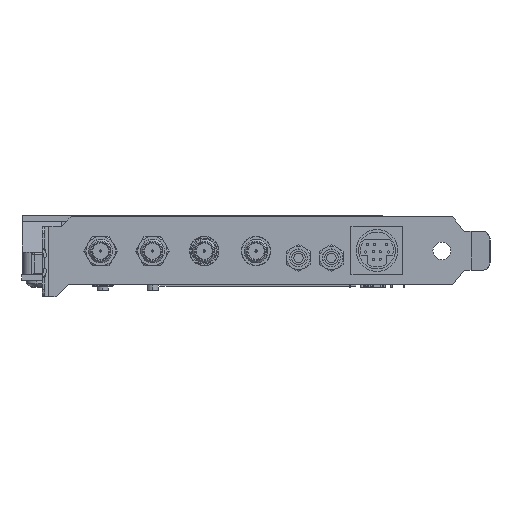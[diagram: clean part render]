
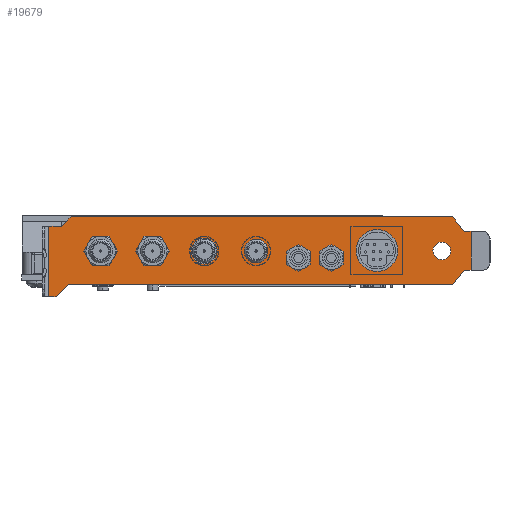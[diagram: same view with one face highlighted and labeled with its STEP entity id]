
A CAD part, left-side view. The second image highlights one B-rep face of the part: STEP entity #19679.
In plain terms, the highlighted planar face has unit normal (-1, 0, 0).
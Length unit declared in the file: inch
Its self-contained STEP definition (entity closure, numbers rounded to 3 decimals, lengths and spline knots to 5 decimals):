
#2687=DIRECTION('',(0.,-1.,0.));
#2688=VECTOR('',#2687,0.078);
#2689=CARTESIAN_POINT('',(0.13,3.72,-0.175));
#2690=LINE('',#2689,#2688);
#3059=DIRECTION('',(0.,-1.,0.));
#3060=VECTOR('',#3059,4.0519);
#3061=CARTESIAN_POINT('',(0.13,3.483,0.675));
#3062=LINE('',#3061,#3060);
#3145=DIRECTION('',(0.,0.,1.));
#3146=VECTOR('',#3145,0.412);
#3147=CARTESIAN_POINT('',(0.13,-0.764,0.108));
#3148=LINE('',#3147,#3146);
#3149=DIRECTION('',(0.,1.,0.));
#3150=VECTOR('',#3149,0.074);
#3151=CARTESIAN_POINT('',(0.13,-0.764,0.108));
#3152=LINE('',#3151,#3150);
#3153=DIRECTION('',(0.,0.616,-0.788));
#3154=VECTOR('',#3153,0.1967);
#3155=CARTESIAN_POINT('',(0.13,-0.69,0.108));
#3156=LINE('',#3155,#3154);
#3157=DIRECTION('',(0.,1.,0.));
#3158=VECTOR('',#3157,4.0829);
#3159=CARTESIAN_POINT('',(0.13,-0.5689,-0.047));
#3160=LINE('',#3159,#3158);
#3161=DIRECTION('',(0.,0.707,-0.707));
#3162=VECTOR('',#3161,0.18102);
#3163=CARTESIAN_POINT('',(0.13,3.514,-0.047));
#3164=LINE('',#3163,#3162);
#3165=DIRECTION('',(0.,0.,-1.));
#3166=VECTOR('',#3165,0.75);
#3167=CARTESIAN_POINT('',(0.13,3.72,0.575));
#3168=LINE('',#3167,#3166);
#3169=DIRECTION('',(0.,-1.,0.));
#3170=VECTOR('',#3169,0.137);
#3171=CARTESIAN_POINT('',(0.13,3.72,0.575));
#3172=LINE('',#3171,#3170);
#3173=DIRECTION('',(0.,-0.707,0.707));
#3174=VECTOR('',#3173,0.14142);
#3175=CARTESIAN_POINT('',(0.13,3.583,0.575));
#3176=LINE('',#3175,#3174);
#3177=DIRECTION('',(0.,-0.616,-0.788));
#3178=VECTOR('',#3177,0.1967);
#3179=CARTESIAN_POINT('',(0.13,-0.5689,0.675));
#3180=LINE('',#3179,#3178);
#3181=DIRECTION('',(0.,1.,0.));
#3182=VECTOR('',#3181,0.074);
#3183=CARTESIAN_POINT('',(0.13,-0.764,0.52));
#3184=LINE('',#3183,#3182);
#3185=CARTESIAN_POINT('',(0.13,-0.453,0.314));
#3186=DIRECTION('',(-1.,0.,0.));
#3187=DIRECTION('',(0.,-1.,0.));
#3188=AXIS2_PLACEMENT_3D('',#3185,#3186,#3187);
#3190=CARTESIAN_POINT('',(0.13,-0.453,0.314));
#3191=DIRECTION('',(-1.,0.,0.));
#3192=DIRECTION('',(0.,1.,0.));
#3193=AXIS2_PLACEMENT_3D('',#3190,#3191,#3192);
#3195=CARTESIAN_POINT('',(0.13,0.235,0.318));
#3196=DIRECTION('',(-1.,0.,0.));
#3197=DIRECTION('',(0.,-1.,0.));
#3198=AXIS2_PLACEMENT_3D('',#3195,#3196,#3197);
#3200=CARTESIAN_POINT('',(0.13,0.235,0.318));
#3201=DIRECTION('',(-1.,0.,0.));
#3202=DIRECTION('',(0.,1.,0.));
#3203=AXIS2_PLACEMENT_3D('',#3200,#3201,#3202);
#3205=CARTESIAN_POINT('',(0.13,3.169,0.312));
#3206=DIRECTION('',(-1.,0.,0.));
#3207=DIRECTION('',(0.,-1.,0.));
#3208=AXIS2_PLACEMENT_3D('',#3205,#3206,#3207);
#3210=CARTESIAN_POINT('',(0.13,3.169,0.312));
#3211=DIRECTION('',(-1.,0.,0.));
#3212=DIRECTION('',(0.,1.,0.));
#3213=AXIS2_PLACEMENT_3D('',#3210,#3211,#3212);
#3215=CARTESIAN_POINT('',(0.13,1.519,0.312));
#3216=DIRECTION('',(-1.,0.,0.));
#3217=DIRECTION('',(0.,-1.,0.));
#3218=AXIS2_PLACEMENT_3D('',#3215,#3216,#3217);
#3220=CARTESIAN_POINT('',(0.13,1.519,0.312));
#3221=DIRECTION('',(-1.,0.,0.));
#3222=DIRECTION('',(0.,1.,0.));
#3223=AXIS2_PLACEMENT_3D('',#3220,#3221,#3222);
#3225=CARTESIAN_POINT('',(0.13,1.06904,0.239));
#3226=DIRECTION('',(-1.,0.,0.));
#3227=DIRECTION('',(0.,-1.,0.));
#3228=AXIS2_PLACEMENT_3D('',#3225,#3226,#3227);
#3230=CARTESIAN_POINT('',(0.13,1.06904,0.239));
#3231=DIRECTION('',(-1.,0.,0.));
#3232=DIRECTION('',(0.,1.,0.));
#3233=AXIS2_PLACEMENT_3D('',#3230,#3231,#3232);
#3235=CARTESIAN_POINT('',(0.13,0.71904,0.239));
#3236=DIRECTION('',(-1.,0.,0.));
#3237=DIRECTION('',(0.,-1.,0.));
#3238=AXIS2_PLACEMENT_3D('',#3235,#3236,#3237);
#3240=CARTESIAN_POINT('',(0.13,0.71904,0.239));
#3241=DIRECTION('',(-1.,0.,0.));
#3242=DIRECTION('',(0.,1.,0.));
#3243=AXIS2_PLACEMENT_3D('',#3240,#3241,#3242);
#3245=CARTESIAN_POINT('',(0.13,2.619,0.312));
#3246=DIRECTION('',(-1.,0.,0.));
#3247=DIRECTION('',(0.,-1.,0.));
#3248=AXIS2_PLACEMENT_3D('',#3245,#3246,#3247);
#3250=CARTESIAN_POINT('',(0.13,2.619,0.312));
#3251=DIRECTION('',(-1.,0.,0.));
#3252=DIRECTION('',(0.,1.,0.));
#3253=AXIS2_PLACEMENT_3D('',#3250,#3251,#3252);
#3255=CARTESIAN_POINT('',(0.13,2.069,0.312));
#3256=DIRECTION('',(-1.,0.,0.));
#3257=DIRECTION('',(0.,-1.,0.));
#3258=AXIS2_PLACEMENT_3D('',#3255,#3256,#3257);
#3260=CARTESIAN_POINT('',(0.13,2.069,0.312));
#3261=DIRECTION('',(-1.,0.,0.));
#3262=DIRECTION('',(0.,1.,0.));
#3263=AXIS2_PLACEMENT_3D('',#3260,#3261,#3262);
#14051=CARTESIAN_POINT('',(0.13,3.72,-0.175));
#14053=VERTEX_POINT('',#14051);
#14078=CARTESIAN_POINT('',(0.13,3.72,0.575));
#14080=VERTEX_POINT('',#14078);
#14082=CARTESIAN_POINT('',(0.13,3.583,0.575));
#14083=VERTEX_POINT('',#14082);
#14084=CARTESIAN_POINT('',(0.13,3.483,0.675));
#14085=VERTEX_POINT('',#14084);
#14086=CARTESIAN_POINT('',(0.13,-0.69,0.108));
#14087=CARTESIAN_POINT('',(0.13,-0.5689,-0.047));
#14088=VERTEX_POINT('',#14086);
#14089=VERTEX_POINT('',#14087);
#14090=CARTESIAN_POINT('',(0.13,3.514,-0.047));
#14091=VERTEX_POINT('',#14090);
#14092=CARTESIAN_POINT('',(0.13,3.642,-0.175));
#14093=VERTEX_POINT('',#14092);
#14094=CARTESIAN_POINT('',(0.13,-0.5689,0.675));
#14095=CARTESIAN_POINT('',(0.13,-0.69,0.52));
#14096=VERTEX_POINT('',#14094);
#14097=VERTEX_POINT('',#14095);
#14182=CARTESIAN_POINT('',(0.13,-0.5465,0.314));
#14183=CARTESIAN_POINT('',(0.13,-0.3595,0.314));
#14184=VERTEX_POINT('',#14182);
#14185=VERTEX_POINT('',#14183);
#14194=CARTESIAN_POINT('',(0.13,-0.764,0.108));
#14195=VERTEX_POINT('',#14194);
#14196=CARTESIAN_POINT('',(0.13,-0.764,0.52));
#14197=VERTEX_POINT('',#14196);
#14206=CARTESIAN_POINT('',(0.13,0.0135,0.318));
#14207=CARTESIAN_POINT('',(0.13,0.4565,0.318));
#14208=VERTEX_POINT('',#14206);
#14209=VERTEX_POINT('',#14207);
#14214=CARTESIAN_POINT('',(0.13,3.035,0.312));
#14215=CARTESIAN_POINT('',(0.13,3.303,0.312));
#14216=VERTEX_POINT('',#14214);
#14217=VERTEX_POINT('',#14215);
#14218=CARTESIAN_POINT('',(0.13,1.394,0.312));
#14219=CARTESIAN_POINT('',(0.13,1.644,0.312));
#14220=VERTEX_POINT('',#14218);
#14221=VERTEX_POINT('',#14219);
#14222=CARTESIAN_POINT('',(0.13,0.96254,0.239));
#14223=CARTESIAN_POINT('',(0.13,1.17554,0.239));
#14224=VERTEX_POINT('',#14222);
#14225=VERTEX_POINT('',#14223);
#14226=CARTESIAN_POINT('',(0.13,0.61254,0.239));
#14227=CARTESIAN_POINT('',(0.13,0.82554,0.239));
#14228=VERTEX_POINT('',#14226);
#14229=VERTEX_POINT('',#14227);
#14238=CARTESIAN_POINT('',(0.13,2.4815,0.312));
#14239=CARTESIAN_POINT('',(0.13,2.7565,0.312));
#14240=VERTEX_POINT('',#14238);
#14241=VERTEX_POINT('',#14239);
#14242=CARTESIAN_POINT('',(0.13,1.9315,0.312));
#14243=CARTESIAN_POINT('',(0.13,2.2065,0.312));
#14244=VERTEX_POINT('',#14242);
#14245=VERTEX_POINT('',#14243);
#19612=CARTESIAN_POINT('',(0.13,3.72,0.675));
#19613=DIRECTION('',(-1.,0.,0.));
#19614=DIRECTION('',(0.,-1.,0.));
#19615=AXIS2_PLACEMENT_3D('',#19612,#19613,#19614);
#19616=PLANE('',#19615);
#19617=ORIENTED_EDGE('',*,*,#19606,.F.);
#19618=ORIENTED_EDGE('',*,*,#18818,.T.);
#19619=ORIENTED_EDGE('',*,*,#18831,.T.);
#19620=ORIENTED_EDGE('',*,*,#18845,.T.);
#19621=ORIENTED_EDGE('',*,*,#18859,.T.);
#19622=ORIENTED_EDGE('',*,*,#18874,.F.);
#19623=ORIENTED_EDGE('',*,*,#18901,.F.);
#19624=ORIENTED_EDGE('',*,*,#19453,.T.);
#19625=ORIENTED_EDGE('',*,*,#19467,.T.);
#19626=ORIENTED_EDGE('',*,*,#19480,.T.);
#19627=ORIENTED_EDGE('',*,*,#19495,.T.);
#19628=ORIENTED_EDGE('',*,*,#19508,.F.);
#19629=EDGE_LOOP('',(#19617,#19618,#19619,#19620,#19621,#19622,#19623,#19624,
#19625,#19626,#19627,#19628));
#19630=FACE_OUTER_BOUND('',#19629,.F.);
#19632=ORIENTED_EDGE('',*,*,#19631,.T.);
#19634=ORIENTED_EDGE('',*,*,#19633,.T.);
#19635=EDGE_LOOP('',(#19632,#19634));
#19636=FACE_BOUND('',#19635,.F.);
#19638=ORIENTED_EDGE('',*,*,#19637,.T.);
#19640=ORIENTED_EDGE('',*,*,#19639,.T.);
#19641=EDGE_LOOP('',(#19638,#19640));
#19642=FACE_BOUND('',#19641,.F.);
#19644=ORIENTED_EDGE('',*,*,#19643,.T.);
#19646=ORIENTED_EDGE('',*,*,#19645,.T.);
#19647=EDGE_LOOP('',(#19644,#19646));
#19648=FACE_BOUND('',#19647,.F.);
#19650=ORIENTED_EDGE('',*,*,#19649,.T.);
#19652=ORIENTED_EDGE('',*,*,#19651,.T.);
#19653=EDGE_LOOP('',(#19650,#19652));
#19654=FACE_BOUND('',#19653,.F.);
#19656=ORIENTED_EDGE('',*,*,#19655,.T.);
#19658=ORIENTED_EDGE('',*,*,#19657,.T.);
#19659=EDGE_LOOP('',(#19656,#19658));
#19660=FACE_BOUND('',#19659,.F.);
#19662=ORIENTED_EDGE('',*,*,#19661,.T.);
#19664=ORIENTED_EDGE('',*,*,#19663,.T.);
#19665=EDGE_LOOP('',(#19662,#19664));
#19666=FACE_BOUND('',#19665,.F.);
#19668=ORIENTED_EDGE('',*,*,#19667,.T.);
#19670=ORIENTED_EDGE('',*,*,#19669,.T.);
#19671=EDGE_LOOP('',(#19668,#19670));
#19672=FACE_BOUND('',#19671,.F.);
#19674=ORIENTED_EDGE('',*,*,#19673,.T.);
#19676=ORIENTED_EDGE('',*,*,#19675,.T.);
#19677=EDGE_LOOP('',(#19674,#19676));
#19678=FACE_BOUND('',#19677,.F.);
#19679=ADVANCED_FACE('',(#19630,#19636,#19642,#19648,#19654,#19660,#19666,
#19672,#19678),#19616,.T.);
#3189=CIRCLE('',#3188,0.0935);
#3194=CIRCLE('',#3193,0.0935);
#3199=CIRCLE('',#3198,0.2215);
#3204=CIRCLE('',#3203,0.2215);
#3209=CIRCLE('',#3208,0.134);
#3214=CIRCLE('',#3213,0.134);
#3219=CIRCLE('',#3218,0.125);
#3224=CIRCLE('',#3223,0.125);
#3229=CIRCLE('',#3228,0.1065);
#3234=CIRCLE('',#3233,0.1065);
#3239=CIRCLE('',#3238,0.1065);
#3244=CIRCLE('',#3243,0.1065);
#3249=CIRCLE('',#3248,0.1375);
#3254=CIRCLE('',#3253,0.1375);
#3259=CIRCLE('',#3258,0.1375);
#3264=CIRCLE('',#3263,0.1375);
#18818=EDGE_CURVE('',#14195,#14088,#3152,.T.);
#18831=EDGE_CURVE('',#14088,#14089,#3156,.T.);
#18845=EDGE_CURVE('',#14089,#14091,#3160,.T.);
#18859=EDGE_CURVE('',#14091,#14093,#3164,.T.);
#18874=EDGE_CURVE('',#14053,#14093,#2690,.T.);
#18901=EDGE_CURVE('',#14080,#14053,#3168,.T.);
#19453=EDGE_CURVE('',#14080,#14083,#3172,.T.);
#19467=EDGE_CURVE('',#14083,#14085,#3176,.T.);
#19480=EDGE_CURVE('',#14085,#14096,#3062,.T.);
#19495=EDGE_CURVE('',#14096,#14097,#3180,.T.);
#19508=EDGE_CURVE('',#14197,#14097,#3184,.T.);
#19606=EDGE_CURVE('',#14195,#14197,#3148,.T.);
#19631=EDGE_CURVE('',#14184,#14185,#3189,.T.);
#19633=EDGE_CURVE('',#14185,#14184,#3194,.T.);
#19637=EDGE_CURVE('',#14208,#14209,#3199,.T.);
#19639=EDGE_CURVE('',#14209,#14208,#3204,.T.);
#19643=EDGE_CURVE('',#14216,#14217,#3209,.T.);
#19645=EDGE_CURVE('',#14217,#14216,#3214,.T.);
#19649=EDGE_CURVE('',#14220,#14221,#3219,.T.);
#19651=EDGE_CURVE('',#14221,#14220,#3224,.T.);
#19655=EDGE_CURVE('',#14224,#14225,#3229,.T.);
#19657=EDGE_CURVE('',#14225,#14224,#3234,.T.);
#19661=EDGE_CURVE('',#14228,#14229,#3239,.T.);
#19663=EDGE_CURVE('',#14229,#14228,#3244,.T.);
#19667=EDGE_CURVE('',#14240,#14241,#3249,.T.);
#19669=EDGE_CURVE('',#14241,#14240,#3254,.T.);
#19673=EDGE_CURVE('',#14244,#14245,#3259,.T.);
#19675=EDGE_CURVE('',#14245,#14244,#3264,.T.);
